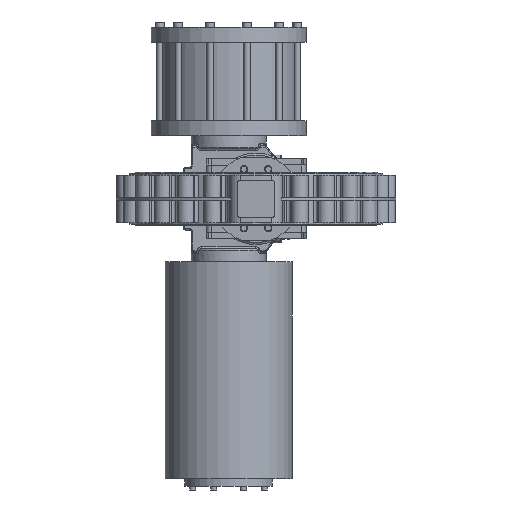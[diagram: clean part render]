
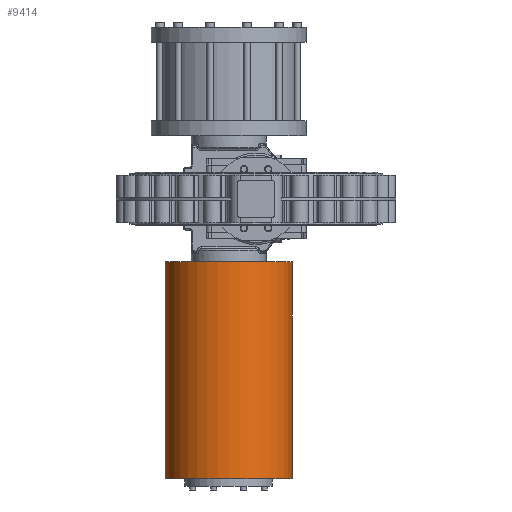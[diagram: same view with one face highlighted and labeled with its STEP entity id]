
A CAD part, front view. The second image highlights one B-rep face of the part: STEP entity #9414.
In plain terms, the highlighted cylindrical face has radius 254 mm (diameter 508 mm), a partial arc.
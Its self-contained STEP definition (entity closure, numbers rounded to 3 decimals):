
#428 = DIRECTION ( 'NONE',  ( 1., 0., 0. ) ) ;
#1741 = VERTEX_POINT ( 'NONE', #20815 ) ;
#2793 = DIRECTION ( 'NONE',  ( 1., 0., 0. ) ) ;
#4592 = ORIENTED_EDGE ( 'NONE', *, *, #34920, .T. ) ;
#4761 = EDGE_LOOP ( 'NONE', ( #8781, #4592, #10510, #27533 ) ) ;
#5859 = FACE_OUTER_BOUND ( 'NONE', #4761, .T. ) ;
#6666 = CIRCLE ( 'NONE', #23974, 254. ) ;
#8756 = VECTOR ( 'NONE', #17144, 1000. ) ;
#8781 = ORIENTED_EDGE ( 'NONE', *, *, #39313, .F. ) ;
#9414 = ADVANCED_FACE ( 'NONE', ( #5859 ), #26811, .T. ) ;
#9614 = CARTESIAN_POINT ( 'NONE',  ( 1120., 0., 254. ) ) ;
#9678 = EDGE_CURVE ( 'NONE', #1741, #41359, #44020, .T. ) ;
#10510 = ORIENTED_EDGE ( 'NONE', *, *, #9678, .T. ) ;
#14961 = VERTEX_POINT ( 'NONE', #38600 ) ;
#17144 = DIRECTION ( 'NONE',  ( 1., 0., 0. ) ) ;
#19388 = AXIS2_PLACEMENT_3D ( 'NONE', #42068, #24329, #21031 ) ;
#19798 = CARTESIAN_POINT ( 'NONE',  ( 0., 0., 254. ) ) ;
#20182 = CIRCLE ( 'NONE', #19388, 254. ) ;
#20289 = DIRECTION ( 'NONE',  ( 1., 0., 0. ) ) ;
#20592 = VERTEX_POINT ( 'NONE', #9614 ) ;
#20815 = CARTESIAN_POINT ( 'NONE',  ( 252., 0., -254. ) ) ;
#21031 = DIRECTION ( 'NONE',  ( 0., 0., -1. ) ) ;
#21878 = CARTESIAN_POINT ( 'NONE',  ( 1120., 0., -254. ) ) ;
#23974 = AXIS2_PLACEMENT_3D ( 'NONE', #27353, #20289, #31364 ) ;
#24329 = DIRECTION ( 'NONE',  ( 1., 0., 0. ) ) ;
#26811 = CYLINDRICAL_SURFACE ( 'NONE', #31158, 254. ) ;
#27353 = CARTESIAN_POINT ( 'NONE',  ( 252., 0., 0. ) ) ;
#27533 = ORIENTED_EDGE ( 'NONE', *, *, #34544, .F. ) ;
#27994 = LINE ( 'NONE', #19798, #8756 ) ;
#31158 = AXIS2_PLACEMENT_3D ( 'NONE', #42185, #2793, #32251 ) ;
#31203 = VECTOR ( 'NONE', #428, 1000. ) ;
#31364 = DIRECTION ( 'NONE',  ( 0., 0., -1. ) ) ;
#32251 = DIRECTION ( 'NONE',  ( 0., 0., -1. ) ) ;
#32705 = CARTESIAN_POINT ( 'NONE',  ( 0., 0., -254. ) ) ;
#34544 = EDGE_CURVE ( 'NONE', #20592, #41359, #20182, .T. ) ;
#34920 = EDGE_CURVE ( 'NONE', #14961, #1741, #6666, .T. ) ;
#38600 = CARTESIAN_POINT ( 'NONE',  ( 252., 0., 254. ) ) ;
#39313 = EDGE_CURVE ( 'NONE', #14961, #20592, #27994, .T. ) ;
#41359 = VERTEX_POINT ( 'NONE', #21878 ) ;
#42068 = CARTESIAN_POINT ( 'NONE',  ( 1120., 0., 0. ) ) ;
#42185 = CARTESIAN_POINT ( 'NONE',  ( 0., 0., 0. ) ) ;
#44020 = LINE ( 'NONE', #32705, #31203 ) ;
